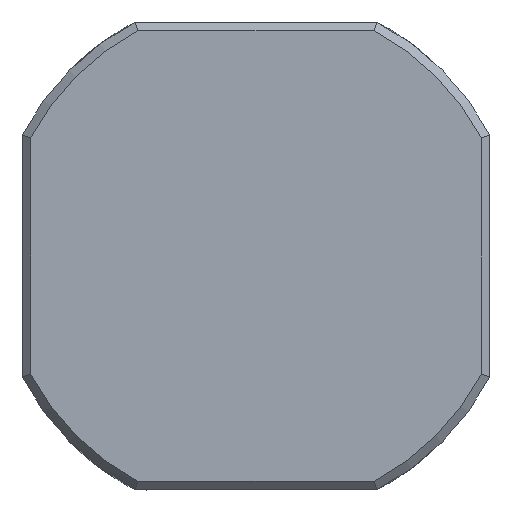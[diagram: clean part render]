
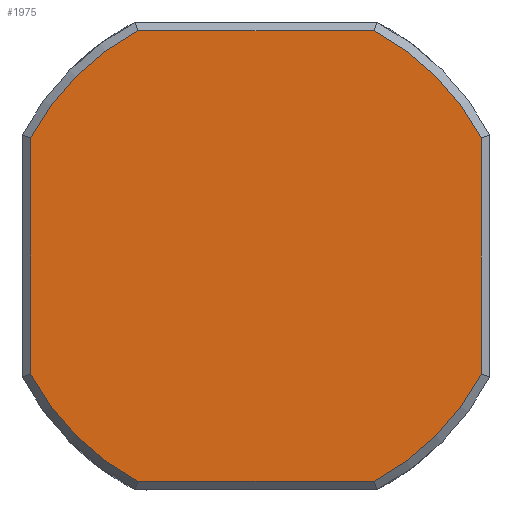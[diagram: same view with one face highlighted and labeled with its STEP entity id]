
A CAD part, left-side view. The second image highlights one B-rep face of the part: STEP entity #1975.
In plain terms, the highlighted planar face has unit normal (-1, 0, 0).
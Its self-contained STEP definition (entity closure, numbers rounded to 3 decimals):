
#36 = EDGE_CURVE ( 'NONE', #2680, #478, #1384, .T. ) ;
#48 = VERTEX_POINT ( 'NONE', #3220 ) ;
#50 = EDGE_CURVE ( 'NONE', #700, #205, #2055, .T. ) ;
#53 = DIRECTION ( 'NONE',  ( 0., 0., -1. ) ) ;
#54 = VERTEX_POINT ( 'NONE', #438 ) ;
#81 = ORIENTED_EDGE ( 'NONE', *, *, #739, .T. ) ;
#112 = CIRCLE ( 'NONE', #2386, 8.7 ) ;
#188 = VERTEX_POINT ( 'NONE', #3261 ) ;
#205 = VERTEX_POINT ( 'NONE', #2515 ) ;
#253 = CARTESIAN_POINT ( 'NONE',  ( -16.75, -7.7, -3.95 ) ) ;
#274 = DIRECTION ( 'NONE',  ( 0., 1., 0. ) ) ;
#360 = DIRECTION ( 'NONE',  ( 0., 0., -1. ) ) ;
#376 = DIRECTION ( 'NONE',  ( 0., 0., 1. ) ) ;
#388 = AXIS2_PLACEMENT_3D ( 'NONE', #670, #1490, #360 ) ;
#438 = CARTESIAN_POINT ( 'NONE',  ( -16.75, -4.05, -15.7 ) ) ;
#468 = CARTESIAN_POINT ( 'NONE',  ( -16.75, -4.05, -0.3 ) ) ;
#478 = VERTEX_POINT ( 'NONE', #253 ) ;
#593 = EDGE_CURVE ( 'NONE', #478, #1644, #3080, .T. ) ;
#670 = CARTESIAN_POINT ( 'NONE',  ( -16.75, 0., -8. ) ) ;
#693 = VECTOR ( 'NONE', #376, 1000. ) ;
#694 = DIRECTION ( 'NONE',  ( 0., -1., 0. ) ) ;
#700 = VERTEX_POINT ( 'NONE', #2587 ) ;
#739 = EDGE_CURVE ( 'NONE', #1644, #700, #2663, .T. ) ;
#772 = DIRECTION ( 'NONE',  ( -1., 0., 0. ) ) ;
#788 = FACE_OUTER_BOUND ( 'NONE', #2531, .T. ) ;
#946 = ORIENTED_EDGE ( 'NONE', *, *, #593, .T. ) ;
#1024 = DIRECTION ( 'NONE',  ( -1., 0., 0. ) ) ;
#1032 = ORIENTED_EDGE ( 'NONE', *, *, #2851, .T. ) ;
#1378 = LINE ( 'NONE', #2749, #2046 ) ;
#1384 = LINE ( 'NONE', #1386, #693 ) ;
#1386 = CARTESIAN_POINT ( 'NONE',  ( -16.75, -7.7, -8. ) ) ;
#1440 = EDGE_CURVE ( 'NONE', #48, #188, #3045, .T. ) ;
#1479 = ORIENTED_EDGE ( 'NONE', *, *, #1962, .T. ) ;
#1490 = DIRECTION ( 'NONE',  ( -1., 0., 0. ) ) ;
#1532 = DIRECTION ( 'NONE',  ( 0., 0., -1. ) ) ;
#1569 = LINE ( 'NONE', #2588, #2177 ) ;
#1597 = DIRECTION ( 'NONE',  ( -1., 0., 0. ) ) ;
#1644 = VERTEX_POINT ( 'NONE', #468 ) ;
#1786 = CARTESIAN_POINT ( 'NONE',  ( -16.75, 0., -8. ) ) ;
#1791 = CARTESIAN_POINT ( 'NONE',  ( -16.75, -7.7, -15.7 ) ) ;
#1797 = CARTESIAN_POINT ( 'NONE',  ( -16.75, 0., -0.3 ) ) ;
#1962 = EDGE_CURVE ( 'NONE', #54, #2680, #112, .T. ) ;
#1966 = AXIS2_PLACEMENT_3D ( 'NONE', #1786, #3299, #1532 ) ;
#1975 = ADVANCED_FACE ( 'NONE', ( #788 ), #2051, .T. ) ;
#2022 = ORIENTED_EDGE ( 'NONE', *, *, #1440, .T. ) ;
#2046 = VECTOR ( 'NONE', #3000, 1000. ) ;
#2051 = PLANE ( 'NONE',  #3051 ) ;
#2055 = CIRCLE ( 'NONE', #388, 8.7 ) ;
#2177 = VECTOR ( 'NONE', #694, 1000. ) ;
#2261 = ORIENTED_EDGE ( 'NONE', *, *, #3273, .T. ) ;
#2309 = CARTESIAN_POINT ( 'NONE',  ( -16.75, 0., -8. ) ) ;
#2386 = AXIS2_PLACEMENT_3D ( 'NONE', #2309, #772, #2553 ) ;
#2515 = CARTESIAN_POINT ( 'NONE',  ( -16.75, 7.7, -3.95 ) ) ;
#2528 = ORIENTED_EDGE ( 'NONE', *, *, #50, .T. ) ;
#2531 = EDGE_LOOP ( 'NONE', ( #2261, #1479, #2795, #946, #81, #2528, #1032, #2022 ) ) ;
#2553 = DIRECTION ( 'NONE',  ( 0., 0., -1. ) ) ;
#2587 = CARTESIAN_POINT ( 'NONE',  ( -16.75, 4.05, -0.3 ) ) ;
#2588 = CARTESIAN_POINT ( 'NONE',  ( -16.75, 0., -15.7 ) ) ;
#2618 = AXIS2_PLACEMENT_3D ( 'NONE', #3111, #1597, #53 ) ;
#2663 = LINE ( 'NONE', #1797, #3250 ) ;
#2680 = VERTEX_POINT ( 'NONE', #3216 ) ;
#2749 = CARTESIAN_POINT ( 'NONE',  ( -16.75, 7.7, -8. ) ) ;
#2795 = ORIENTED_EDGE ( 'NONE', *, *, #36, .T. ) ;
#2818 = DIRECTION ( 'NONE',  ( 0., 0., 1. ) ) ;
#2851 = EDGE_CURVE ( 'NONE', #205, #48, #1378, .T. ) ;
#3000 = DIRECTION ( 'NONE',  ( 0., 0., -1. ) ) ;
#3045 = CIRCLE ( 'NONE', #2618, 8.7 ) ;
#3051 = AXIS2_PLACEMENT_3D ( 'NONE', #1791, #1024, #2818 ) ;
#3080 = CIRCLE ( 'NONE', #1966, 8.7 ) ;
#3111 = CARTESIAN_POINT ( 'NONE',  ( -16.75, 0., -8. ) ) ;
#3216 = CARTESIAN_POINT ( 'NONE',  ( -16.75, -7.7, -12.05 ) ) ;
#3220 = CARTESIAN_POINT ( 'NONE',  ( -16.75, 7.7, -12.05 ) ) ;
#3250 = VECTOR ( 'NONE', #274, 1000. ) ;
#3261 = CARTESIAN_POINT ( 'NONE',  ( -16.75, 4.05, -15.7 ) ) ;
#3273 = EDGE_CURVE ( 'NONE', #188, #54, #1569, .T. ) ;
#3299 = DIRECTION ( 'NONE',  ( -1., 0., 0. ) ) ;
